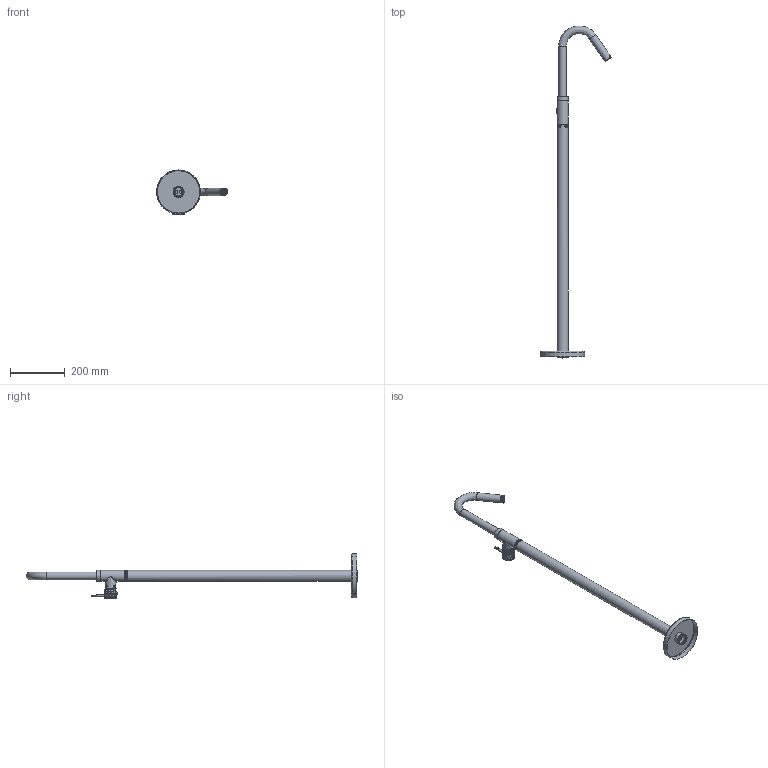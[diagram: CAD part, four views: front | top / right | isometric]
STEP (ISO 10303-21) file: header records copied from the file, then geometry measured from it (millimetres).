
FILE_DESCRIPTION (( 'STEP AP214' ), '1' );
FILE_NAME ('59AP09758.STEP', '2024-10-15T05:48:51', ( '' ), ( '' ), 'SwSTEP 2.0', 'SolidWorks 2021', '' );
FILE_SCHEMA (( 'AUTOMOTIVE_DESIGN' ));
Length unit declared in the file: millimetre
Products named in the file (1): 59AP09758
Bounding box: 257.97 x 1208.65 x 160.6 mm (x, y, z)
Volume: 385198.7 mm3; surface area: 396497.4 mm2
Topology: 10 solids, 10 shells, 1630 faces, 4155 edges, 2739 vertices
Faces by surface type: plane 1218, cylinder 274, bspline 116, cone 16, torus 5, sphere 1
Full cylindrical faces by diameter (mm): 4 x1, 4.5 x1, 5 x7, 5.8 x1, 6.8 x1, 7.7 x1, 8 x1, 9.5 x1, 10 x2, 10.5 x1, 16 x1, 16.5 x1, 20 x1, 21.5 x1, 23.2 x2, 24 x3, 24.5 x2, 25 x1, 28 x3, 30 x8, 32 x2, 34.4 x1, 36 x15, 36.5 x7, 38 x8, 40 x10, 42.5 x1, 158 x1, 160 x1
Entity records: 88716 total; most frequent: CARTESIAN_POINT 34318, ORIENTED_EDGE 7806, DIRECTION 6766, EDGE_CURVE 3903, LINE 3002, VECTOR 3002, VERTEX_POINT 2624, EDGE_LOOP 1899
